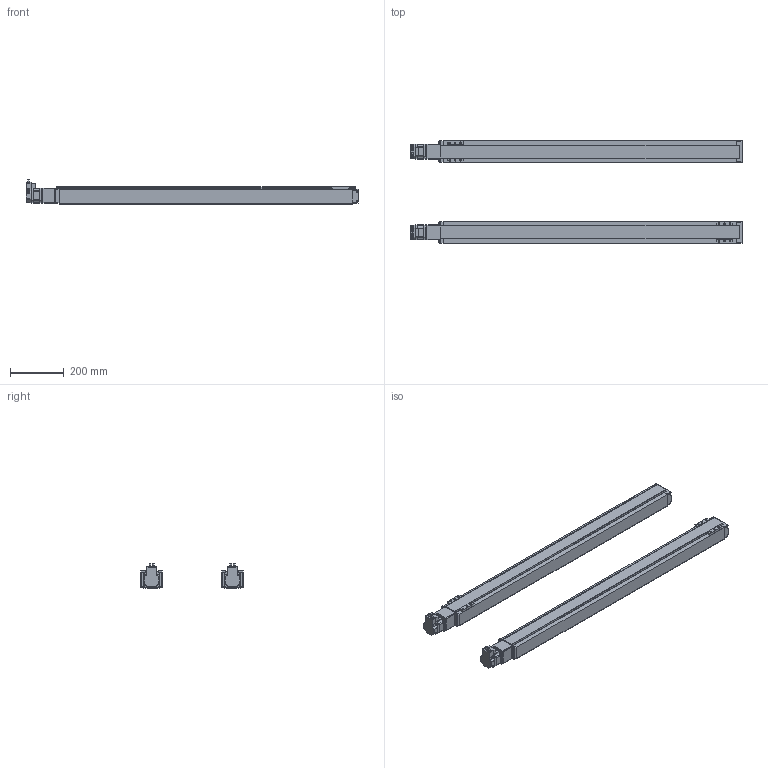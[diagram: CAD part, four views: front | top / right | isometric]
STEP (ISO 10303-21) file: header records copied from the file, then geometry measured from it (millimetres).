
FILE_DESCRIPTION(('FreeCAD Model'),'2;1');
FILE_NAME('Open CASCADE Shape Model','2023-08-01T15:27:41',('Author'),( ''),'Open CASCADE STEP processor 7.5','FreeCAD','Unknown');
FILE_SCHEMA(('AUTOMOTIVE_DESIGN { 1 0 10303 214 1 1 1 1 }'));
Length unit declared in the file: millimetre
Products named in the file (47): Unnamed; Shapes; Shapes001; Shapes002; Shapes003; Shapes004; Shapes005; Shapes006; Shapes007; Shapes008; Shapes009; Shapes010; Shapes011; Shapes012; Shapes013; Shapes014; Shapes015; Shapes016; Shapes017; Shapes018; Shapes019; Shapes020; Shapes021; Shapes022; Shapes023; Shapes024; Shapes025; Shapes026; Shapes027; Shapes028; Shapes029; Shapes030; Shapes031; Shapes032; Shapes033; Shapes034; Shapes035; Shapes036; Shapes037; Shapes038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
Assembly tree (46 placements, depth 2):
  Unnamed
    Shapes
    Shapes001
    Shapes002
    Shapes003
    Shapes004
    Shapes005
    Shapes006
    Shapes007
    Shapes008
    Shapes009
    Shapes010
    Shapes011
    Shapes012
    Shapes013
    Shapes014
    Shapes015
    Shapes016
    Shapes017
    Shapes018
    Shapes019
    Shapes020
    Shapes021
    Shapes022
    Shapes023
    Shapes024
    Shapes025
    Shapes026
    Shapes027
    Shapes028
    Shapes029
    Shapes030
    Shapes031
    Shapes032
    Shapes033
    Shapes034
    Shapes035
    Shapes036
    Shapes037
    Shapes038
    Shapes039
    Shapes040
    Shapes041
    Shapes042
    Shapes043
    Shapes044
    Shapes045
Bounding box: 1232.6 x 380 x 91.1 mm (x, y, z)
Volume: 11441836.8 mm3; surface area: 1667832.2 mm2
Topology: 46 solids, 46 shells, 1336 faces, 3478 edges, 2228 vertices
Faces by surface type: cylinder 788, plane 406, torus 104, bspline 18, sphere 16, revolution 4
Entity records: 321888 total; most frequent: CARTESIAN_POINT 251175, DIRECTION 13399, LINE 7417, VECTOR 7417, ORIENTED_EDGE 6924, PCURVE 6924, DEFINITIONAL_REPRESENTATION 6924, EDGE_CURVE 3462
